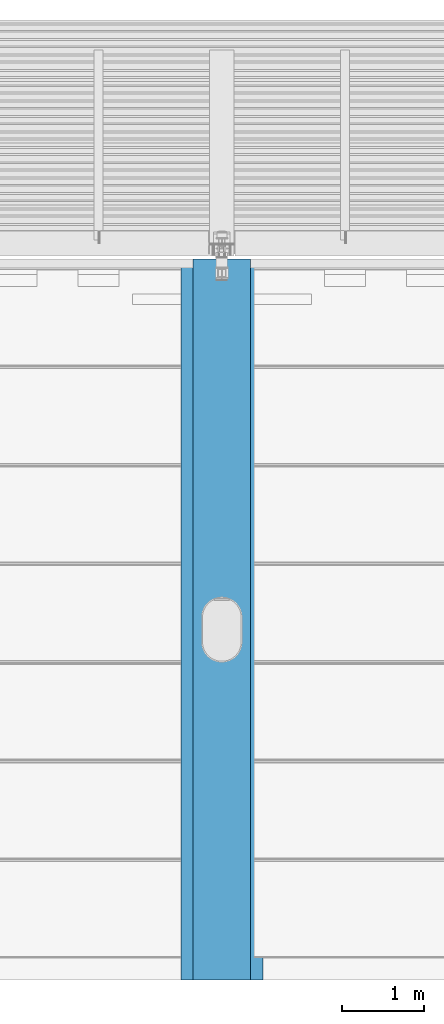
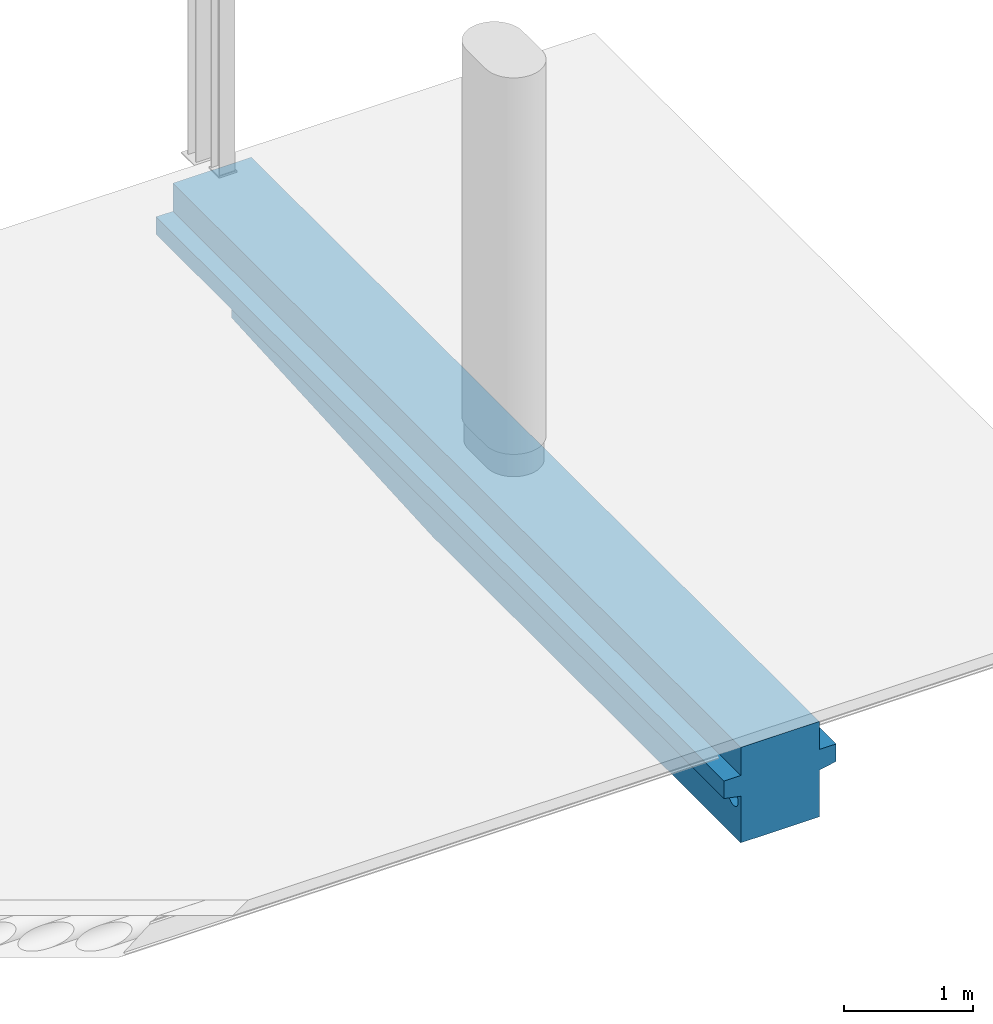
# One storey, part 22 of 34: 1 beam.
"""IFC2X3 building model written with IfcOpenShell, lengths in millimetres."""

import ifcopenshell
import ifcopenshell.guid

model = None  # the IFC model being written
_history = None  # IfcOwnerHistory: only IFC2X3 demands one
_inside = {}  # id of a spatial element -> (the spatial element, [elements in it])
_under = {}  # id of a project, library or spatial element -> (it, [spatial elements below it])
_declared = {}  # id of a project -> (the project, [libraries it declares])
_typed = {}  # id of a type object -> (the type object, [elements of that type])
_made_of = {}  # id of a material, layer set ... -> (it, [elements and type objects made of it])


def new_model(schema):
    """Start an empty IFC model of exactly this schema.

    Asked for "IFC4X3", IfcOpenShell would pick the latest addendum, in which some entities
    have other attributes; the version numbers below select the first issue.
    IFC2X3 requires an IfcOwnerHistory on every rooted entity: one is made here for all.
    """
    global model, _history
    if schema == "IFC4X3":
        model = ifcopenshell.file(schema_version=(4, 3, 0, 0))
    else:
        model = ifcopenshell.file(schema=schema)
    _inside.clear()
    _under.clear()
    _declared.clear()
    _typed.clear()
    _made_of.clear()
    _history = None
    if model.schema == "IFC2X3":
        org = make("IfcOrganization", Name="unknown")
        user = make(
            "IfcPersonAndOrganization",
            ThePerson=make("IfcPerson", FamilyName="unknown"),
            TheOrganization=org,
        )
        app = make(
            "IfcApplication",
            ApplicationDeveloper=org,
            Version="unknown",
            ApplicationFullName="unknown",
            ApplicationIdentifier="unknown",
        )
        _history = make(
            "IfcOwnerHistory",
            OwningUser=user,
            OwningApplication=app,
            ChangeAction="ADDED",
            CreationDate=0,
        )
    return model


def make(cls, **values):
    """One entity of the class cls with the attributes given. An attribute that is None is left unset."""
    return model.create_entity(
        cls, **{name: value for name, value in values.items() if value is not None}
    )


def entity(cls, *values):
    """Any entity or typed value of the class cls, its attributes in the order of the schema. None: left unset."""
    e = model.create_entity(cls)
    for i, value in enumerate(values):
        if value is not None:
            e[i] = value
    return e


def rooted(cls, **values):
    """An entity with a GlobalId (a new one), such as an element, a storey or a relation."""
    return make(cls, GlobalId=ifcopenshell.guid.new(), OwnerHistory=_history, **values)


def si_unit(unit_type, name, prefix=None):
    """IfcSIUnit, for example si_unit("LENGTHUNIT", "METRE", prefix="MILLI")."""
    return make("IfcSIUnit", UnitType=unit_type, Prefix=prefix, Name=name)


def converted_unit(unit_type, name, factor, base, dimensions=None, offset=None):
    """IfcConversionBasedUnit, such as the inch: factor (a typed value) times the base unit."""
    return make(
        "IfcConversionBasedUnit"
        if offset is None
        else "IfcConversionBasedUnitWithOffset",
        ConversionOffset=offset,
        Dimensions=None
        if dimensions is None
        else entity("IfcDimensionalExponents", *dimensions),
        UnitType=unit_type,
        Name=name,
        ConversionFactor=make(
            "IfcMeasureWithUnit", ValueComponent=factor, UnitComponent=base
        ),
    )


def derived_unit(unit_type, elements):
    """IfcDerivedUnit: a product of units, each with its exponent."""
    return make(
        "IfcDerivedUnit",
        Elements=[
            make("IfcDerivedUnitElement", Unit=unit, Exponent=power)
            for unit, power in elements
        ],
        UnitType=unit_type,
    )


def assignment(units):
    """IfcUnitAssignment: the units of a project."""
    return None if units is None else make("IfcUnitAssignment", Units=units)


def point(xyz):
    """IfcCartesianPoint."""
    return None if xyz is None else make("IfcCartesianPoint", Coordinates=xyz)


def direction(xyz):
    """IfcDirection."""
    return None if xyz is None else make("IfcDirection", DirectionRatios=xyz)


def frame(location, z_axis=None, x_axis=None):
    """IfcAxis2Placement3D, a coordinate frame: its origin and axes. An axis left out is left unset."""
    return make(
        "IfcAxis2Placement3D",
        Location=point(location),
        Axis=direction(z_axis),
        RefDirection=direction(x_axis),
    )


def origin_with_axes():
    """The frame at (0, 0, 0) with the z axis (0, 0, 1) and the x axis (1, 0, 0) written out."""
    return frame((0.0, 0.0, 0.0), z_axis=(0.0, 0.0, 1.0), x_axis=(1.0, 0.0, 0.0))


def place(relative_to, where):
    """IfcLocalPlacement: puts the frame where relative to a parent placement (None: the world)."""
    return make(
        "IfcLocalPlacement", PlacementRelTo=relative_to, RelativePlacement=where
    )


def context(
    kind, dimensions, precision=None, world=None, true_north=None, identifier=None
):
    """IfcGeometricRepresentationContext, for example the 3D "Model" context."""
    return make(
        "IfcGeometricRepresentationContext",
        ContextIdentifier=identifier,
        ContextType=kind,
        CoordinateSpaceDimension=dimensions,
        Precision=precision,
        WorldCoordinateSystem=world,
        TrueNorth=true_north,
    )


def subcontext(parent, identifier, kind, view, scale=None):
    """IfcGeometricRepresentationSubContext, for example "Body" below "Model"."""
    return make(
        "IfcGeometricRepresentationSubContext",
        ContextIdentifier=identifier,
        ContextType=kind,
        ParentContext=parent,
        TargetScale=scale,
        TargetView=view,
    )


def project(units=None, contexts=None):
    """IfcProject with its units and contexts."""
    return rooted(
        "IfcProject",
        Name="project",
        RepresentationContexts=contexts,
        UnitsInContext=assignment(units),
    )


def spatial(cls, under=None, at=None, **own):
    """A site, building, storey or space (cls), placed at a placement, below another one or the project."""
    s = rooted(cls, ObjectPlacement=at, **own)
    if under is not None:
        _under.setdefault(under.id(), (under, []))[1].append(s)
    return s


def faces_of(points, faces, orient=None, outer=None):
    """IfcFace entities. A face is a list of loops; a loop is a list of indices into points, from 0.

    orient and outer hold one flag for each loop. By default every Orientation is true, the
    first loop of a face is its IfcFaceOuterBound and the others are IfcFaceBound.
    """
    made = []
    for i, loops in enumerate(faces):
        bounds = []
        for j, loop in enumerate(loops):
            is_outer = j == 0 if outer is None else outer[i][j]
            bounds.append(
                make(
                    "IfcFaceOuterBound" if is_outer else "IfcFaceBound",
                    Bound=make("IfcPolyLoop", Polygon=[points[k] for k in loop]),
                    Orientation=True if orient is None else orient[i][j],
                )
            )
        made.append(make("IfcFace", Bounds=bounds))
    return made


def faceted_brep(points, faces, orient=None, outer=None, voids=None):
    """IfcFacetedBrep: a solid bounded by flat faces; with voids (closed shells), ...WithVoids."""
    shared = [point(p) for p in points]
    hull = make("IfcClosedShell", CfsFaces=faces_of(shared, faces, orient, outer))
    if voids is None:
        return make("IfcFacetedBrep", Outer=hull)
    return make(
        "IfcFacetedBrepWithVoids",
        Outer=hull,
        Voids=[
            make(cls, CfsFaces=faces_of(shared, fs, o, b)) for cls, fs, o, b in voids
        ],
    )


def shape(context_of_items, identifier, shape_type, items):
    """IfcShapeRepresentation: the items that make up one representation, for example the "Body"."""
    return make(
        "IfcShapeRepresentation",
        ContextOfItems=context_of_items,
        RepresentationIdentifier=identifier,
        RepresentationType=shape_type,
        Items=items,
    )


def made_of(thing, what):
    """Note that an element or type object is made of a material, layer set ...; save() writes the relation."""
    if what is not None:
        _made_of.setdefault(what.id(), (what, []))[1].append(thing)
    return thing


def type_object(cls, material=None, **own):
    """A type object (cls), such as IfcWallType, which elements share."""
    return made_of(rooted(cls, **own), material)


def element(
    cls,
    number,
    at=None,
    inside=None,
    cuts=None,
    type_object=None,
    material=None,
    context=None,
    identifier="Body",
    shape_type=None,
    held_by="IfcProductDefinitionShape",
    body=None,
    shapes=None,
    **own,
):
    """One element of the class cls, such as IfcWall. Its Tag is "e" and its number.

    at: its placement. inside: the storey or other place that contains it. cuts: it is an
    opening in that element (IfcRelVoidsElement). A single representation is given by context,
    identifier, shape_type and body (its items); several are given by shapes. held_by: the class
    of the entity that holds the representations. save() writes the other relations.
    """
    e = rooted(cls, Tag="e%d" % number, ObjectPlacement=at, **own)
    if body is not None:
        shapes = [shape(context, identifier, shape_type, body)]
    if shapes is not None:
        e.Representation = make(held_by, Representations=shapes)
    if inside is not None:
        _inside.setdefault(inside.id(), (inside, []))[1].append(e)
    if cuts is not None:
        rooted(
            "IfcRelVoidsElement", RelatingBuildingElement=cuts, RelatedOpeningElement=e
        )
    if type_object is not None:
        _typed.setdefault(type_object.id(), (type_object, []))[1].append(e)
    return made_of(e, material)


def aggregate(whole, parts):
    """IfcRelAggregates: a whole, such as a stair, and the parts it consists of."""
    return rooted("IfcRelAggregates", RelatingObject=whole, RelatedObjects=parts)


def save(model, path):
    """Write the relations noted so far, then the file.

    IfcRelAggregates (storeys below a building ...), IfcRelContainedInSpatialStructure (elements
    in a storey), IfcRelDefinesByType, IfcRelAssociatesMaterial and IfcRelDeclares: one each for
    every whole, place, type object, material and project.
    """
    for whole, parts in _under.values():
        aggregate(whole, parts)
    for where, things in _inside.values():
        rooted(
            "IfcRelContainedInSpatialStructure",
            RelatedElements=things,
            RelatingStructure=where,
        )
    for kind, things in _typed.values():
        rooted("IfcRelDefinesByType", RelatedObjects=things, RelatingType=kind)
    for what, things in _made_of.values():
        rooted("IfcRelAssociatesMaterial", RelatedObjects=things, RelatingMaterial=what)
    for by, libraries in _declared.values():
        rooted("IfcRelDeclares", RelatingContext=by, RelatedDefinitions=libraries)
    model.write(path)


model = new_model("IFC2X3")

# Units and contexts
model_context = context("Model", 3, precision=0.01, world=frame((0.0, 4.29681676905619e-09, 0.0)), true_north=direction((4.01073788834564e-13, 1.0)))
plan_context = context("Plan", 3, precision=0.01, world=frame((0.0, 4.29681676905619e-09, 0.0)), true_north=direction((4.01073788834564e-13, 1.0)))
body_context = subcontext(model_context, "Body", "Model", "MODEL_VIEW")
ifc_project = project(units=[converted_unit("PLANEANGLEUNIT", "DEGREE", entity("IfcPositiveLengthMeasure", 0.0174532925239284), si_unit("PLANEANGLEUNIT", "RADIAN"), dimensions=[0, 0, 0, 0, 0, 0, 0]), si_unit("AREAUNIT", "SQUARE_METRE"), si_unit("LENGTHUNIT", "METRE", prefix="MILLI"), si_unit("MASSUNIT", "GRAM", prefix="KILO"), si_unit("POWERUNIT", "WATT"), si_unit("PRESSUREUNIT", "PASCAL"), si_unit("FORCEUNIT", "NEWTON", prefix="KILO"), si_unit("ELECTRICVOLTAGEUNIT", "VOLT"), si_unit("ELECTRICCURRENTUNIT", "AMPERE"), si_unit("THERMODYNAMICTEMPERATUREUNIT", "DEGREE_CELSIUS"), si_unit("TIMEUNIT", "SECOND"), si_unit("VOLUMEUNIT", "CUBIC_METRE"), derived_unit("LINEARVELOCITYUNIT", [(si_unit("LENGTHUNIT", "METRE"), 1), (si_unit("TIMEUNIT", "SECOND"), -1)]), derived_unit("VOLUMETRICFLOWRATEUNIT", [(si_unit("VOLUMEUNIT", "CUBIC_METRE"), 1), (si_unit("TIMEUNIT", "SECOND"), -1)]), derived_unit("THERMALTRANSMITTANCEUNIT", [(si_unit("POWERUNIT", "WATT"), 1), (si_unit("THERMODYNAMICTEMPERATUREUNIT", "KELVIN"), -1), (si_unit("AREAUNIT", "SQUARE_METRE"), -1)]), derived_unit("SOUNDPRESSUREUNIT", [(si_unit("PRESSUREUNIT", "PASCAL"), 1)])], contexts=[model_context, plan_context])

# Site, building, storey
site_placement = place(None, frame((0.0, -4.29681676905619e-09, 0.0), z_axis=(0.0, 0.0, 1.0), x_axis=(1.0, 0.0, 0.0)))
site = spatial("IfcSite", under=ifc_project, at=site_placement, Name="Gardermoen", CompositionType="ELEMENT")
building_placement = place(site_placement, frame((0.0, 4.29681676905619e-09, 0.0), z_axis=(0.0, 0.0, 1.0), x_axis=(1.0, 0.0, 0.0)))
building = spatial("IfcBuilding", under=site, at=building_placement, Name="TH", CompositionType="ELEMENT")
storey_placement = place(building_placement, origin_with_axes())
storey = spatial("IfcBuildingStorey", under=building, at=storey_placement, Name="F", CompositionType="ELEMENT", Elevation=0.0)

# Beam
beam_type = type_object("IfcBeamType", Name="AAJKORS265*195*30*900*150*700*700", PredefinedType="NOTDEFINED")
beam_placement = place(storey_placement, frame((906999.999531, 472407.995625, 209580.0), z_axis=(0.0, 0.0, 1.0), x_axis=(0.0, 1.0, 0.0)))
element("IfcBeam", 1, at=beam_placement, inside=storey, type_object=beam_type, Name="PREFABBJELKE", ObjectType="AAJKORS265*195*30*900*150*700*700", context=body_context, shape_type="Brep", body=[
    faceted_brep([(11662.003003, -125.000468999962, 0.0), (11912.003003, -125.000468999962, 0.0), (11912.003003, 124.999531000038, 0.0), (11662.003003, 124.999531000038, 0.0), (11662.003003, -125.000468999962, -10.0), (11662.003003, 124.999531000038, -10.0), (11912.003003, 124.999531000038, -10.0), (11912.003003, -125.000468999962, -10.0), (3626.68129588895, 500.0, 185.0), (3626.68129588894, 500.0, 20.0), (12402.0, 500.0, 20.0), (12402.0, 500.0, 185.0), (3626.68129588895, 350.0, 185.0), (12402.0, 350.0, 185.0), (3626.68129588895, -500.0, 20.0), (3626.68129588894, -500.0, 185.0), (12402.0, -500.0, 185.0), (12402.0, -500.0, 20.0), (3626.68129588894, -350.0, 185.0), (12402.0, -350.0, 185.0), (3626.68129588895, -350.0, 450.0), (12402.0, -350.0, 450.0), (3626.68129588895, 350.0, 450.0), (12402.0, 350.0, 450.0), (3626.68129588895, 350.0, -450.0), (3626.68129588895, -350.0, -450.0), (8391.9968947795, -350.0, -450.0), (8391.9968947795, 350.0, -450.0), (11492.0, -350.0, -269.999759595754), (11492.0, 350.0, -269.999759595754), (11492.0, -350.0, -10.0), (11492.0, 350.0, -10.0), (3814.43998449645, -350.0, -70.5855008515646), (3814.43998449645, 350.0, -70.5855008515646), (3806.94745280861, 350.0, -52.496929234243), (3806.94745280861, -350.0, -52.496929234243), (3816.99554752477, -350.0, -89.996929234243), (3816.99554752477, 350.0, -89.996929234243), (3814.43998449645, -350.0, -109.408357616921), (3814.43998449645, 350.0, -109.408357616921), (3806.94745280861, -350.0, -127.496929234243), (3806.94745280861, 350.0, -127.496929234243), (3795.02855611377, -350.0, -143.029937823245), (3795.02855611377, 350.0, -143.029937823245), (3779.49554752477, -350.0, -154.948834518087), (3779.49554752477, 350.0, -154.948834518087), (3761.40697590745, -350.0, -162.441366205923), (3761.40697590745, 350.0, -162.441366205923), (3741.99554752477, -350.0, -164.996929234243), (3741.99554752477, 350.0, -164.996929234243), (3722.58411914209, -350.0, -162.441366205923), (3722.58411914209, 350.0, -162.441366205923), (3704.49554752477, -350.0, -154.948834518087), (3704.49554752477, 350.0, -154.948834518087), (3688.96253893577, -350.0, -143.029937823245), (3688.96253893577, 350.0, -143.029937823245), (3677.04364224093, -350.0, -127.496929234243), (3677.04364224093, 350.0, -127.496929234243), (3669.55111055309, -350.0, -109.408357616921), (3669.55111055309, 350.0, -109.408357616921), (3666.99554752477, -350.0, -89.996929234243), (3666.99554752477, 350.0, -89.996929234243), (3669.55111055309, -350.0, -70.5855008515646), (3669.55111055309, 350.0, -70.5855008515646), (3677.04364224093, -350.0, -52.496929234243), (3677.04364224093, 350.0, -52.496929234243), (3688.96253893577, -350.0, -36.9639206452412), (3688.96253893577, 350.0, -36.9639206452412), (3704.49554752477, -350.0, -25.0450239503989), (3704.49554752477, 350.0, -25.0450239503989), (3722.58411914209, -350.0, -17.5524922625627), (3722.58411914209, 350.0, -17.5524922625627), (3741.99554752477, -350.0, -14.996929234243), (3741.99554752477, 350.0, -14.996929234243), (3761.40697590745, -350.0, -17.5524922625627), (3761.40697590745, 350.0, -17.5524922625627), (3779.49554752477, -350.0, -25.0450239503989), (3779.49554752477, 350.0, -25.0450239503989), (3795.02855611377, -350.0, -36.9639206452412), (3795.02855611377, 350.0, -36.9639206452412), (4114.43998449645, -350.0, -70.5855008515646), (4114.43998449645, 350.0, -70.5855008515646), (4106.94745280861, 350.0, -52.496929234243), (4106.94745280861, -350.0, -52.496929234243), (4116.99554752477, -350.0, -89.996929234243), (4116.99554752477, 350.0, -89.996929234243), (4114.43998449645, -350.0, -109.408357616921), (4114.43998449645, 350.0, -109.408357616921), (4106.94745280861, -350.0, -127.496929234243), (4106.94745280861, 350.0, -127.496929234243), (4095.02855611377, -350.0, -143.029937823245), (4095.02855611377, 350.0, -143.029937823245), (4079.49554752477, -350.0, -154.948834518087), (4079.49554752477, 350.0, -154.948834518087), (4061.40697590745, -350.0, -162.441366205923), (4061.40697590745, 350.0, -162.441366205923), (4041.99554752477, -350.0, -164.996929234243), (4041.99554752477, 350.0, -164.996929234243), (4022.58411914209, -350.0, -162.441366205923), (4022.58411914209, 350.0, -162.441366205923), (4004.49554752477, -350.0, -154.948834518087), (4004.49554752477, 350.0, -154.948834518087), (3988.96253893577, -350.0, -143.029937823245), (3988.96253893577, 350.0, -143.029937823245), (3977.04364224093, -350.0, -127.496929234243), (3977.04364224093, 350.0, -127.496929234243), (3969.55111055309, -350.0, -109.408357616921), (3969.55111055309, 350.0, -109.408357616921), (3966.99554752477, -350.0, -89.996929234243), (3966.99554752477, 350.0, -89.996929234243), (3969.55111055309, -350.0, -70.5855008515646), (3969.55111055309, 350.0, -70.5855008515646), (3977.04364224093, -350.0, -52.496929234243), (3977.04364224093, 350.0, -52.496929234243), (3988.96253893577, -350.0, -36.9639206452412), (3988.96253893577, 350.0, -36.9639206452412), (4004.49554752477, -350.0, -25.0450239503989), (4004.49554752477, 350.0, -25.0450239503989), (4022.58411914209, -350.0, -17.5524922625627), (4022.58411914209, 350.0, -17.5524922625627), (4041.99554752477, -350.0, -14.996929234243), (4041.99554752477, 350.0, -14.996929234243), (4061.40697590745, -350.0, -17.5524922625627), (4061.40697590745, 350.0, -17.5524922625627), (4079.49554752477, -350.0, -25.0450239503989), (4079.49554752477, 350.0, -25.0450239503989), (4095.02855611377, -350.0, -36.9639206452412), (4095.02855611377, 350.0, -36.9639206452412), (4414.43998449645, -350.0, -70.5855008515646), (4414.43998449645, 350.0, -70.5855008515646), (4406.94745280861, 350.0, -52.496929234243), (4406.94745280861, -350.0, -52.496929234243), (4416.99554752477, -350.0, -89.996929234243), (4416.99554752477, 350.0, -89.996929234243), (4414.43998449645, -350.0, -109.408357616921), (4414.43998449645, 350.0, -109.408357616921), (4406.94745280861, -350.0, -127.496929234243), (4406.94745280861, 350.0, -127.496929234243), (4395.02855611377, -350.0, -143.029937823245), (4395.02855611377, 350.0, -143.029937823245), (4379.49554752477, -350.0, -154.948834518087), (4379.49554752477, 350.0, -154.948834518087), (4361.40697590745, -350.0, -162.441366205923), (4361.40697590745, 350.0, -162.441366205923), (4341.99554752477, -350.0, -164.996929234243), (4341.99554752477, 350.0, -164.996929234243), (4322.58411914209, -350.0, -162.441366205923), (4322.58411914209, 350.0, -162.441366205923), (4304.49554752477, -350.0, -154.948834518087), (4304.49554752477, 350.0, -154.948834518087), (4288.96253893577, -350.0, -143.029937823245), (4288.96253893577, 350.0, -143.029937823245), (4277.04364224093, -350.0, -127.496929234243), (4277.04364224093, 350.0, -127.496929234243), (4269.55111055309, -350.0, -109.408357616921), (4269.55111055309, 350.0, -109.408357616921), (4266.99554752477, -350.0, -89.996929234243), (4266.99554752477, 350.0, -89.996929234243), (4269.55111055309, -350.0, -70.5855008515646), (4269.55111055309, 350.0, -70.5855008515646), (4277.04364224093, -350.0, -52.496929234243), (4277.04364224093, 350.0, -52.496929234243), (4288.96253893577, -350.0, -36.9639206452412), (4288.96253893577, 350.0, -36.9639206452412), (4304.49554752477, -350.0, -25.0450239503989), (4304.49554752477, 350.0, -25.0450239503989), (4322.58411914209, -350.0, -17.5524922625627), (4322.58411914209, 350.0, -17.5524922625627), (4341.99554752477, -350.0, -14.996929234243), (4341.99554752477, 350.0, -14.996929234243), (4361.40697590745, -350.0, -17.5524922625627), (4361.40697590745, 350.0, -17.5524922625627), (4379.49554752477, -350.0, -25.0450239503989), (4379.49554752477, 350.0, -25.0450239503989), (4395.02855611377, -350.0, -36.9639206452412), (4395.02855611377, 350.0, -36.9639206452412), (5014.43998449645, -350.0, -70.5855008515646), (5014.43998449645, 350.0, -70.5855008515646), (5006.94745280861, 350.0, -52.496929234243), (5006.94745280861, -350.0, -52.496929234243), (5016.99554752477, -350.0, -89.996929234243), (5016.99554752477, 350.0, -89.996929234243), (5014.43998449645, -350.0, -109.408357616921), (5014.43998449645, 350.0, -109.408357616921), (5006.94745280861, -350.0, -127.496929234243), (5006.94745280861, 350.0, -127.496929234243), (4995.02855611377, -350.0, -143.029937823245), (4995.02855611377, 350.0, -143.029937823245), (4979.49554752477, -350.0, -154.948834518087), (4979.49554752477, 350.0, -154.948834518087), (4961.40697590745, -350.0, -162.441366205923), (4961.40697590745, 350.0, -162.441366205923), (4941.99554752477, -350.0, -164.996929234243), (4941.99554752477, 350.0, -164.996929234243), (4922.58411914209, -350.0, -162.441366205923), (4922.58411914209, 350.0, -162.441366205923), (4904.49554752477, -350.0, -154.948834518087), (4904.49554752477, 350.0, -154.948834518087), (4888.96253893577, -350.0, -143.029937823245), (4888.96253893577, 350.0, -143.029937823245), (4877.04364224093, -350.0, -127.496929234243), (4877.04364224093, 350.0, -127.496929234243), (4869.55111055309, -350.0, -109.408357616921), (4869.55111055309, 350.0, -109.408357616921), (4866.99554752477, -350.0, -89.996929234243), (4866.99554752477, 350.0, -89.996929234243), (4869.55111055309, -350.0, -70.5855008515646), (4869.55111055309, 350.0, -70.5855008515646), (4877.04364224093, -350.0, -52.496929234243), (4877.04364224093, 350.0, -52.496929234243), (4888.96253893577, -350.0, -36.9639206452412), (4888.96253893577, 350.0, -36.9639206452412), (4904.49554752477, -350.0, -25.0450239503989), (4904.49554752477, 350.0, -25.0450239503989), (4922.58411914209, -350.0, -17.5524922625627), (4922.58411914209, 350.0, -17.5524922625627), (4941.99554752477, -350.0, -14.996929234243), (4941.99554752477, 350.0, -14.996929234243), (4961.40697590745, -350.0, -17.5524922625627), (4961.40697590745, 350.0, -17.5524922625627), (4979.49554752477, -350.0, -25.0450239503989), (4979.49554752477, 350.0, -25.0450239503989), (4995.02855611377, -350.0, -36.9639206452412), (4995.02855611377, 350.0, -36.9639206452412), (5314.43998449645, -350.0, -70.5855008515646), (5314.43998449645, 350.0, -70.5855008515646), (5306.94745280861, 350.0, -52.496929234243), (5306.94745280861, -350.0, -52.496929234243), (5316.99554752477, -350.0, -89.996929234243), (5316.99554752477, 350.0, -89.996929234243), (5314.43998449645, -350.0, -109.408357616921), (5314.43998449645, 350.0, -109.408357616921), (5306.94745280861, -350.0, -127.496929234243), (5306.94745280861, 350.0, -127.496929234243), (5295.02855611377, -350.0, -143.029937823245), (5295.02855611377, 350.0, -143.029937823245), (5279.49554752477, -350.0, -154.948834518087), (5279.49554752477, 350.0, -154.948834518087), (5261.40697590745, -350.0, -162.441366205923), (5261.40697590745, 350.0, -162.441366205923), (5241.99554752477, -350.0, -164.996929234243), (5241.99554752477, 350.0, -164.996929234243), (5222.58411914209, -350.0, -162.441366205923), (5222.58411914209, 350.0, -162.441366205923), (5204.49554752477, -350.0, -154.948834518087), (5204.49554752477, 350.0, -154.948834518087), (5188.96253893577, -350.0, -143.029937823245), (5188.96253893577, 350.0, -143.029937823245), (5177.04364224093, -350.0, -127.496929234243), (5177.04364224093, 350.0, -127.496929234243), (5169.55111055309, -350.0, -109.408357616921), (5169.55111055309, 350.0, -109.408357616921), (5166.99554752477, -350.0, -89.996929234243), (5166.99554752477, 350.0, -89.996929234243), (5169.55111055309, -350.0, -70.5855008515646), (5169.55111055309, 350.0, -70.5855008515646), (5177.04364224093, -350.0, -52.496929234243), (5177.04364224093, 350.0, -52.496929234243), (5188.96253893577, -350.0, -36.9639206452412), (5188.96253893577, 350.0, -36.9639206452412), (5204.49554752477, -350.0, -25.0450239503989), (5204.49554752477, 350.0, -25.0450239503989), (5222.58411914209, -350.0, -17.5524922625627), (5222.58411914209, 350.0, -17.5524922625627), (5241.99554752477, -350.0, -14.996929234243), (5241.99554752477, 350.0, -14.996929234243), (5261.40697590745, -350.0, -17.5524922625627), (5261.40697590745, 350.0, -17.5524922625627), (5279.49554752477, -350.0, -25.0450239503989), (5279.49554752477, 350.0, -25.0450239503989), (5295.02855611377, -350.0, -36.9639206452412), (5295.02855611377, 350.0, -36.9639206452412), (7164.43998449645, -350.0, -70.5855008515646), (7164.43998449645, 350.0, -70.5855008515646), (7156.94745280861, 350.0, -52.496929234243), (7156.94745280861, -350.0, -52.496929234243), (7166.99554752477, -350.0, -89.996929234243), (7166.99554752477, 350.0, -89.996929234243), (7164.43998449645, -350.0, -109.408357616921), (7164.43998449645, 350.0, -109.408357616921), (7156.94745280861, -350.0, -127.496929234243), (7156.94745280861, 350.0, -127.496929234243), (7145.02855611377, -350.0, -143.029937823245), (7145.02855611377, 350.0, -143.029937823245), (7129.49554752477, -350.0, -154.948834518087), (7129.49554752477, 350.0, -154.948834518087), (7111.40697590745, -350.0, -162.441366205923), (7111.40697590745, 350.0, -162.441366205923), (7091.99554752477, -350.0, -164.996929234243), (7091.99554752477, 350.0, -164.996929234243), (7072.58411914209, -350.0, -162.441366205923), (7072.58411914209, 350.0, -162.441366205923), (7054.49554752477, -350.0, -154.948834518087), (7054.49554752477, 350.0, -154.948834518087), (7038.96253893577, -350.0, -143.029937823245), (7038.96253893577, 350.0, -143.029937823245), (7027.04364224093, -350.0, -127.496929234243), (7027.04364224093, 350.0, -127.496929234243), (7019.55111055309, -350.0, -109.408357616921), (7019.55111055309, 350.0, -109.408357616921), (7016.99554752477, -350.0, -89.996929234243), (7016.99554752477, 350.0, -89.996929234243), (7019.55111055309, -350.0, -70.5855008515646), (7019.55111055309, 350.0, -70.5855008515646), (7027.04364224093, -350.0, -52.496929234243), (7027.04364224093, 350.0, -52.496929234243), (7038.96253893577, -350.0, -36.9639206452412), (7038.96253893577, 350.0, -36.9639206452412), (7054.49554752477, -350.0, -25.0450239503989), (7054.49554752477, 350.0, -25.0450239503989), (7072.58411914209, -350.0, -17.5524922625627), (7072.58411914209, 350.0, -17.5524922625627), (7091.99554752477, -350.0, -14.996929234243), (7091.99554752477, 350.0, -14.996929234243), (7111.40697590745, -350.0, -17.5524922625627), (7111.40697590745, 350.0, -17.5524922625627), (7129.49554752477, -350.0, -25.0450239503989), (7129.49554752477, 350.0, -25.0450239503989), (7145.02855611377, -350.0, -36.9639206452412), (7145.02855611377, 350.0, -36.9639206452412), (3626.68129588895, 350.0, -10.0), (4714.43998449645, 350.0, -70.5855008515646), (4716.99554752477, 350.0, -89.996929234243), (4714.43998449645, 350.0, -109.408357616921), (4706.94745280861, 350.0, -127.496929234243), (4695.02855611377, 350.0, -143.029937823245), (4679.49554752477, 350.0, -154.948834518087), (4661.40697590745, 350.0, -162.441366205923), (4641.99554752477, 350.0, -164.996929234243), (4622.58411914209, 350.0, -162.441366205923), (4604.49554752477, 350.0, -154.948834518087), (4588.96253893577, 350.0, -143.029937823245), (4577.04364224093, 350.0, -127.496929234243), (4569.55111055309, 350.0, -109.408357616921), (4566.99554752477, 350.0, -89.996929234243), (4569.55111055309, 350.0, -70.5855008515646), (4577.04364224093, 350.0, -52.496929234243), (4588.96253893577, 350.0, -36.9639206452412), (4604.49554752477, 350.0, -25.0450239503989), (4622.58411914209, 350.0, -17.5524922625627), (4641.99554752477, 350.0, -14.996929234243), (4661.40697590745, 350.0, -17.5524922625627), (4679.49554752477, 350.0, -25.0450239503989), (4695.02855611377, 350.0, -36.9639206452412), (4706.94745280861, 350.0, -52.496929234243), (4716.99554752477, -350.0, -89.996929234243), (4714.43998449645, -350.0, -70.5855008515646), (4714.43998449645, -350.0, -109.408357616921), (4706.94745280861, -350.0, -127.496929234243), (4695.02855611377, -350.0, -143.029937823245), (4679.49554752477, -350.0, -154.948834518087), (4661.40697590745, -350.0, -162.441366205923), (4641.99554752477, -350.0, -164.996929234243), (4622.58411914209, -350.0, -162.441366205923), (4604.49554752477, -350.0, -154.948834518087), (4588.96253893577, -350.0, -143.029937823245), (4577.04364224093, -350.0, -127.496929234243), (4569.55111055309, -350.0, -109.408357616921), (4566.99554752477, -350.0, -89.996929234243), (4569.55111055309, -350.0, -70.5855008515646), (4577.04364224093, -350.0, -52.496929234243), (4588.96253893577, -350.0, -36.9639206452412), (4604.49554752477, -350.0, -25.0450239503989), (4622.58411914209, -350.0, -17.5524922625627), (4641.99554752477, -350.0, -14.996929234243), (4661.40697590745, -350.0, -17.5524922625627), (4679.49554752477, -350.0, -25.0450239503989), (4695.02855611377, -350.0, -36.9639206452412), (4706.94745280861, -350.0, -52.496929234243), (3626.68129588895, -350.0, -10.0), (12402.0, -350.0, -10.0), (12402.0, 350.0, -10.0)], [[[0, 1, 2, 3]], [[4, 0, 3, 5]], [[5, 3, 2, 6]], [[6, 2, 1, 7]], [[7, 1, 0, 4]], [[8, 9, 10, 11]], [[12, 8, 11, 13]], [[14, 15, 16, 17]], [[15, 18, 19, 16]], [[18, 20, 21, 19]], [[20, 22, 23, 21]], [[22, 12, 13, 23]], [[24, 25, 26, 27]], [[26, 28, 29, 27]], [[29, 28, 30, 31]], [[32, 33, 34, 35]], [[36, 37, 33, 32]], [[38, 39, 37, 36]], [[40, 41, 39, 38]], [[42, 43, 41, 40]], [[44, 45, 43, 42]], [[46, 47, 45, 44]], [[48, 49, 47, 46]], [[50, 51, 49, 48]], [[52, 53, 51, 50]], [[54, 55, 53, 52]], [[56, 57, 55, 54]], [[58, 59, 57, 56]], [[60, 61, 59, 58]], [[62, 63, 61, 60]], [[64, 65, 63, 62]], [[66, 67, 65, 64]], [[68, 69, 67, 66]], [[70, 71, 69, 68]], [[72, 73, 71, 70]], [[74, 75, 73, 72]], [[76, 77, 75, 74]], [[78, 79, 77, 76]], [[35, 34, 79, 78]], [[80, 81, 82, 83]], [[84, 85, 81, 80]], [[86, 87, 85, 84]], [[88, 89, 87, 86]], [[90, 91, 89, 88]], [[92, 93, 91, 90]], [[94, 95, 93, 92]], [[96, 97, 95, 94]], [[98, 99, 97, 96]], [[100, 101, 99, 98]], [[102, 103, 101, 100]], [[104, 105, 103, 102]], [[106, 107, 105, 104]], [[108, 109, 107, 106]], [[110, 111, 109, 108]], [[112, 113, 111, 110]], [[114, 115, 113, 112]], [[116, 117, 115, 114]], [[118, 119, 117, 116]], [[120, 121, 119, 118]], [[122, 123, 121, 120]], [[124, 125, 123, 122]], [[126, 127, 125, 124]], [[83, 82, 127, 126]], [[128, 129, 130, 131]], [[132, 133, 129, 128]], [[134, 135, 133, 132]], [[136, 137, 135, 134]], [[138, 139, 137, 136]], [[140, 141, 139, 138]], [[142, 143, 141, 140]], [[144, 145, 143, 142]], [[146, 147, 145, 144]], [[148, 149, 147, 146]], [[150, 151, 149, 148]], [[152, 153, 151, 150]], [[154, 155, 153, 152]], [[156, 157, 155, 154]], [[158, 159, 157, 156]], [[160, 161, 159, 158]], [[162, 163, 161, 160]], [[164, 165, 163, 162]], [[166, 167, 165, 164]], [[168, 169, 167, 166]], [[170, 171, 169, 168]], [[172, 173, 171, 170]], [[174, 175, 173, 172]], [[131, 130, 175, 174]], [[176, 177, 178, 179]], [[180, 181, 177, 176]], [[182, 183, 181, 180]], [[184, 185, 183, 182]], [[186, 187, 185, 184]], [[188, 189, 187, 186]], [[190, 191, 189, 188]], [[192, 193, 191, 190]], [[194, 195, 193, 192]], [[196, 197, 195, 194]], [[198, 199, 197, 196]], [[200, 201, 199, 198]], [[202, 203, 201, 200]], [[204, 205, 203, 202]], [[206, 207, 205, 204]], [[208, 209, 207, 206]], [[210, 211, 209, 208]], [[212, 213, 211, 210]], [[214, 215, 213, 212]], [[216, 217, 215, 214]], [[218, 219, 217, 216]], [[220, 221, 219, 218]], [[222, 223, 221, 220]], [[179, 178, 223, 222]], [[224, 225, 226, 227]], [[228, 229, 225, 224]], [[230, 231, 229, 228]], [[232, 233, 231, 230]], [[234, 235, 233, 232]], [[236, 237, 235, 234]], [[238, 239, 237, 236]], [[240, 241, 239, 238]], [[242, 243, 241, 240]], [[244, 245, 243, 242]], [[246, 247, 245, 244]], [[248, 249, 247, 246]], [[250, 251, 249, 248]], [[252, 253, 251, 250]], [[254, 255, 253, 252]], [[256, 257, 255, 254]], [[258, 259, 257, 256]], [[260, 261, 259, 258]], [[262, 263, 261, 260]], [[264, 265, 263, 262]], [[266, 267, 265, 264]], [[268, 269, 267, 266]], [[270, 271, 269, 268]], [[227, 226, 271, 270]], [[272, 273, 274, 275]], [[276, 277, 273, 272]], [[278, 279, 277, 276]], [[280, 281, 279, 278]], [[282, 283, 281, 280]], [[284, 285, 283, 282]], [[286, 287, 285, 284]], [[288, 289, 287, 286]], [[290, 291, 289, 288]], [[292, 293, 291, 290]], [[294, 295, 293, 292]], [[296, 297, 295, 294]], [[298, 299, 297, 296]], [[300, 301, 299, 298]], [[302, 303, 301, 300]], [[304, 305, 303, 302]], [[306, 307, 305, 304]], [[308, 309, 307, 306]], [[310, 311, 309, 308]], [[312, 313, 311, 310]], [[314, 315, 313, 312]], [[316, 317, 315, 314]], [[318, 319, 317, 316]], [[275, 274, 319, 318]], [[320, 24, 27, 29, 31], [321, 322, 323, 324, 325, 326, 327, 328, 329, 330, 331, 332, 333, 334, 335, 336, 337, 338, 339, 340, 341, 342, 343, 344], [273, 277, 279, 281, 283, 285, 287, 289, 291, 293, 295, 297, 299, 301, 303, 305, 307, 309, 311, 313, 315, 317, 319, 274], [225, 229, 231, 233, 235, 237, 239, 241, 243, 245, 247, 249, 251, 253, 255, 257, 259, 261, 263, 265, 267, 269, 271, 226], [177, 181, 183, 185, 187, 189, 191, 193, 195, 197, 199, 201, 203, 205, 207, 209, 211, 213, 215, 217, 219, 221, 223, 178], [129, 133, 135, 137, 139, 141, 143, 145, 147, 149, 151, 153, 155, 157, 159, 161, 163, 165, 167, 169, 171, 173, 175, 130], [81, 85, 87, 89, 91, 93, 95, 97, 99, 101, 103, 105, 107, 109, 111, 113, 115, 117, 119, 121, 123, 125, 127, 82], [33, 37, 39, 41, 43, 45, 47, 49, 51, 53, 55, 57, 59, 61, 63, 65, 67, 69, 71, 73, 75, 77, 79, 34]], [[345, 322, 321, 346]], [[347, 323, 322, 345]], [[348, 324, 323, 347]], [[349, 325, 324, 348]], [[350, 326, 325, 349]], [[351, 327, 326, 350]], [[352, 328, 327, 351]], [[353, 329, 328, 352]], [[354, 330, 329, 353]], [[355, 331, 330, 354]], [[356, 332, 331, 355]], [[357, 333, 332, 356]], [[358, 334, 333, 357]], [[359, 335, 334, 358]], [[360, 336, 335, 359]], [[361, 337, 336, 360]], [[362, 338, 337, 361]], [[363, 339, 338, 362]], [[364, 340, 339, 363]], [[365, 341, 340, 364]], [[366, 342, 341, 365]], [[367, 343, 342, 366]], [[368, 344, 343, 367]], [[346, 321, 344, 368]], [[25, 369, 30, 28, 26], [347, 345, 346, 368, 367, 366, 365, 364, 363, 362, 361, 360, 359, 358, 357, 356, 355, 354, 353, 352, 351, 350, 349, 348], [278, 276, 272, 275, 318, 316, 314, 312, 310, 308, 306, 304, 302, 300, 298, 296, 294, 292, 290, 288, 286, 284, 282, 280], [230, 228, 224, 227, 270, 268, 266, 264, 262, 260, 258, 256, 254, 252, 250, 248, 246, 244, 242, 240, 238, 236, 234, 232], [182, 180, 176, 179, 222, 220, 218, 216, 214, 212, 210, 208, 206, 204, 202, 200, 198, 196, 194, 192, 190, 188, 186, 184], [134, 132, 128, 131, 174, 172, 170, 168, 166, 164, 162, 160, 158, 156, 154, 152, 150, 148, 146, 144, 142, 140, 138, 136], [86, 84, 80, 83, 126, 124, 122, 120, 118, 116, 114, 112, 110, 108, 106, 104, 102, 100, 98, 96, 94, 92, 90, 88], [38, 36, 32, 35, 78, 76, 74, 72, 70, 68, 66, 64, 62, 60, 58, 56, 54, 52, 50, 48, 46, 44, 42, 40]], [[369, 14, 17, 370]], [[371, 31, 30, 370], [6, 7, 4, 5]], [[9, 320, 371, 10]], [[371, 370, 17, 16, 19, 21, 23, 13, 11, 10]], [[12, 22, 20, 18, 15, 14, 369, 25, 24, 320, 9, 8]]], orient=[[False], [False], [False], [False], [False], [False], [False], [False], [False], [False], [False], [False], [False], [False], [False], [False], [False], [False], [False], [False], [False], [False], [False], [False], [False], [False], [False], [False], [False], [False], [False], [False], [False], [False], [False], [False], [False], [False], [False], [False], [False], [False], [False], [False], [False], [False], [False], [False], [False], [False], [False], [False], [False], [False], [False], [False], [False], [False], [False], [False], [False], [False], [False], [False], [False], [False], [False], [False], [False], [False], [False], [False], [False], [False], [False], [False], [False], [False], [False], [False], [False], [False], [False], [False], [False], [False], [False], [False], [False], [False], [False], [False], [False], [False], [False], [False], [False], [False], [False], [False], [False], [False], [False], [False], [False], [False], [False], [False], [False], [False], [False], [False], [False], [False], [False], [False], [False], [False], [False], [False], [False], [False], [False], [False], [False], [False], [False], [False], [False], [False], [False], [False], [False], [False], [False], [False], [False], [False], [False], [False], [False], [False], [False], [False], [False], [False], [False], [False], [False], [False], [False], [False], [False], [False], [False], [False], [False], [False], [False], [False, False, False, False, False, False, False, False], [False], [False], [False], [False], [False], [False], [False], [False], [False], [False], [False], [False], [False], [False], [False], [False], [False], [False], [False], [False], [False], [False], [False], [False], [False, False, False, False, False, False, False, False], [False], [False, False], [False], [False], [False]]),
])

save(model, "model.ifc")
